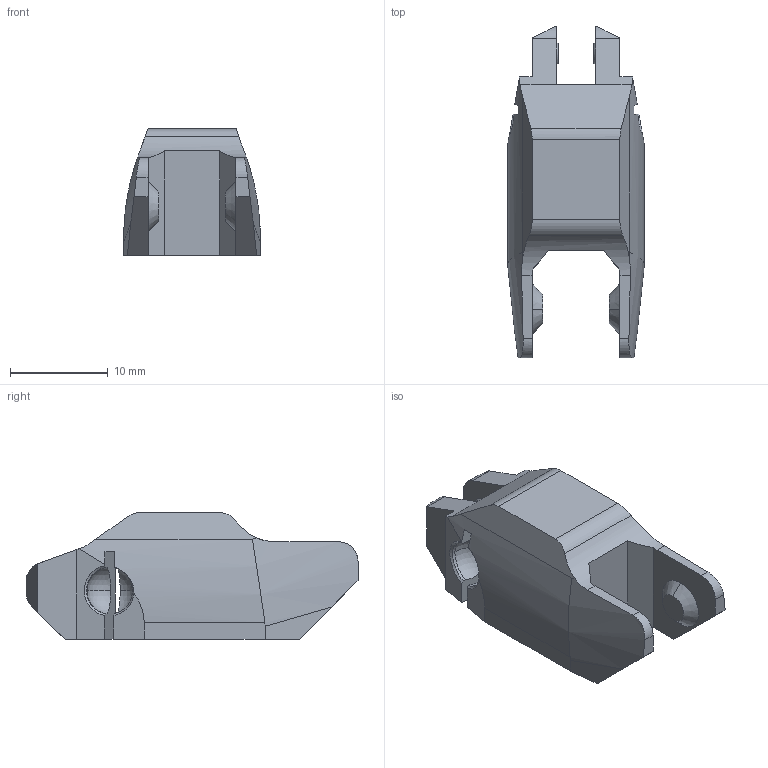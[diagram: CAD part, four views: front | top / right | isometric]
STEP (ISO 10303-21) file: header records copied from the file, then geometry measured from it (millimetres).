
FILE_DESCRIPTION (( 'STEP AP203' ), '1' );
FILE_NAME ('chest.step', '2023-08-15T08:05:28', ( '' ), ( '' ), 'SwSTEP 2.0', 'SolidWorks 2020', '' );
FILE_SCHEMA (( 'CONFIG_CONTROL_DESIGN' ));
Length unit declared in the file: millimetre
Products named in the file (1): chest
Bounding box: 14 x 34.02 x 13 mm (x, y, z)
Volume: 3038.6 mm3; surface area: 1916.8 mm2
Topology: 1 solids, 1 shells, 90 faces, 247 edges, 163 vertices
Faces by surface type: plane 49, cylinder 19, cone 14, sphere 8
Entity records: 2983 total; most frequent: CARTESIAN_POINT 690, ORIENTED_EDGE 494, DIRECTION 438, EDGE_CURVE 247, VERTEX_POINT 163, AXIS2_PLACEMENT_3D 149, LINE 140, VECTOR 140
